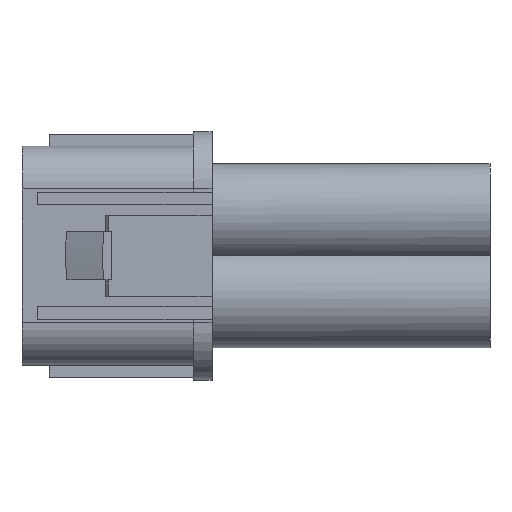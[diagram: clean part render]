
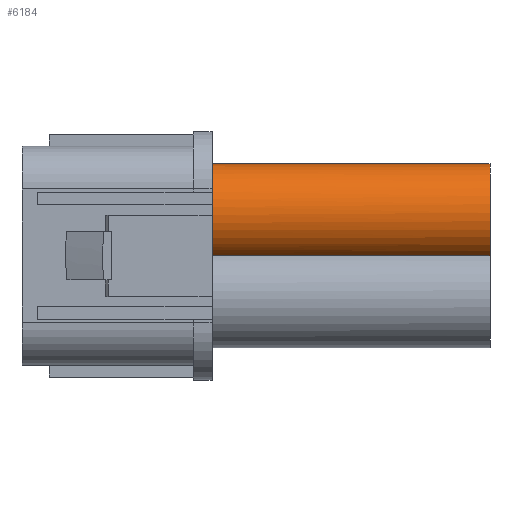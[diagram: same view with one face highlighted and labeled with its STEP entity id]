
A CAD part, top view. The second image highlights one B-rep face of the part: STEP entity #6184.
In plain terms, the highlighted cylindrical face has radius 4.75 mm (diameter 9.5 mm), a partial arc.
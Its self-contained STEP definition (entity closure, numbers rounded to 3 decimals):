
#6137=AXIS2_PLACEMENT_3D('Cylinder Axis2P3D',#6134,#6135,#6136) ;
#6174=AXIS2_PLACEMENT_3D('Circle Axis2P3D',#6172,#6173,$) ;
#352=CARTESIAN_POINT('Vertex',(1.8,0.,14.032)) ;
#356=CARTESIAN_POINT('Control Point',(1.8,0.54,14.75)) ;
#357=CARTESIAN_POINT('Control Point',(1.8,0.419,14.617)) ;
#358=CARTESIAN_POINT('Control Point',(1.8,0.304,14.479)) ;
#359=CARTESIAN_POINT('Control Point',(1.8,0.195,14.334)) ;
#360=CARTESIAN_POINT('Control Point',(1.8,0.094,14.185)) ;
#361=CARTESIAN_POINT('Control Point',(1.8,0.,14.032)) ;
#362=CARTESIAN_POINT('Vertex',(1.8,0.54,14.75)) ;
#366=CARTESIAN_POINT('Control Point',(1.8,8.8,11.55)) ;
#367=CARTESIAN_POINT('Control Point',(1.8,8.8,12.084)) ;
#368=CARTESIAN_POINT('Control Point',(1.8,8.725,12.618)) ;
#369=CARTESIAN_POINT('Control Point',(1.8,8.575,13.138)) ;
#370=CARTESIAN_POINT('Control Point',(1.8,8.133,14.121)) ;
#371=CARTESIAN_POINT('Control Point',(1.8,7.437,14.945)) ;
#372=CARTESIAN_POINT('Control Point',(1.8,7.033,15.304)) ;
#373=CARTESIAN_POINT('Control Point',(1.8,6.135,15.901)) ;
#374=CARTESIAN_POINT('Control Point',(1.8,5.108,16.227)) ;
#375=CARTESIAN_POINT('Control Point',(1.8,4.574,16.317)) ;
#376=CARTESIAN_POINT('Control Point',(1.8,3.496,16.343)) ;
#377=CARTESIAN_POINT('Control Point',(1.8,2.453,16.072)) ;
#378=CARTESIAN_POINT('Control Point',(1.8,1.953,15.863)) ;
#379=CARTESIAN_POINT('Control Point',(1.8,1.363,15.511)) ;
#380=CARTESIAN_POINT('Control Point',(1.8,0.849,15.064)) ;
#381=CARTESIAN_POINT('Control Point',(1.8,0.742,14.963)) ;
#382=CARTESIAN_POINT('Control Point',(1.8,0.639,14.858)) ;
#383=CARTESIAN_POINT('Control Point',(1.8,0.54,14.75)) ;
#384=CARTESIAN_POINT('Vertex',(1.8,8.8,11.55)) ;
#6134=CARTESIAN_POINT('Axis2P3D Location',(14.,4.05,11.55)) ;
#6139=CARTESIAN_POINT('Line Origine',(14.,8.8,11.55)) ;
#6143=CARTESIAN_POINT('Vertex',(28.4,8.8,11.55)) ;
#6165=CARTESIAN_POINT('Line Origine',(14.,0.,14.032)) ;
#6169=CARTESIAN_POINT('Vertex',(28.4,0.,14.032)) ;
#6172=CARTESIAN_POINT('Axis2P3D Location',(28.4,4.05,11.55)) ;
#6135=DIRECTION('Axis2P3D Direction',(1.,0.,0.)) ;
#6136=DIRECTION('Axis2P3D XDirection',(0.,-1.,0.)) ;
#6140=DIRECTION('Vector Direction',(1.,0.,0.)) ;
#6166=DIRECTION('Vector Direction',(1.,0.,0.)) ;
#6173=DIRECTION('Axis2P3D Direction',(1.,0.,0.)) ;
#6141=VECTOR('Line Direction',#6140,1.) ;
#6167=VECTOR('Line Direction',#6166,1.) ;
#6178=ORIENTED_EDGE('',*,*,#364,.T.) ;
#6179=ORIENTED_EDGE('',*,*,#6171,.T.) ;
#6180=ORIENTED_EDGE('',*,*,#6176,.F.) ;
#6181=ORIENTED_EDGE('',*,*,#6145,.F.) ;
#6182=ORIENTED_EDGE('',*,*,#386,.T.) ;
#6184=ADVANCED_FACE('HSG',(#6183),#6138,.T.) ;
#355=B_SPLINE_CURVE_WITH_KNOTS('',5,(#356,#357,#358,#359,#360,#361),.UNSPECIFIED.,.F.,.U.,(6,6),(0.,1.271),.UNSPECIFIED.) ;
#365=B_SPLINE_CURVE_WITH_KNOTS('',5,(#366,#367,#368,#369,#370,#371,#372,#373,#374,#375,#376,#377,#378,#379,#380,#381,#382,#383),.UNSPECIFIED.,.F.,.U.,(6,3,3,3,3,6),(0.,3.775,7.55,11.325,15.099,16.137),.UNSPECIFIED.) ;
#6175=CIRCLE('generated circle',#6174,4.75) ;
#6138=CYLINDRICAL_SURFACE('generated cylinder',#6137,4.75) ;
#364=EDGE_CURVE('',#363,#353,#355,.T.) ;
#386=EDGE_CURVE('',#385,#363,#365,.T.) ;
#6145=EDGE_CURVE('',#385,#6144,#6142,.T.) ;
#6171=EDGE_CURVE('',#353,#6170,#6168,.T.) ;
#6176=EDGE_CURVE('',#6144,#6170,#6175,.T.) ;
#6177=EDGE_LOOP('',(#6178,#6179,#6180,#6181,#6182)) ;
#6183=FACE_OUTER_BOUND('',#6177,.T.) ;
#6142=LINE('Line',#6139,#6141) ;
#6168=LINE('Line',#6165,#6167) ;
#353=VERTEX_POINT('',#352) ;
#363=VERTEX_POINT('',#362) ;
#385=VERTEX_POINT('',#384) ;
#6144=VERTEX_POINT('',#6143) ;
#6170=VERTEX_POINT('',#6169) ;
